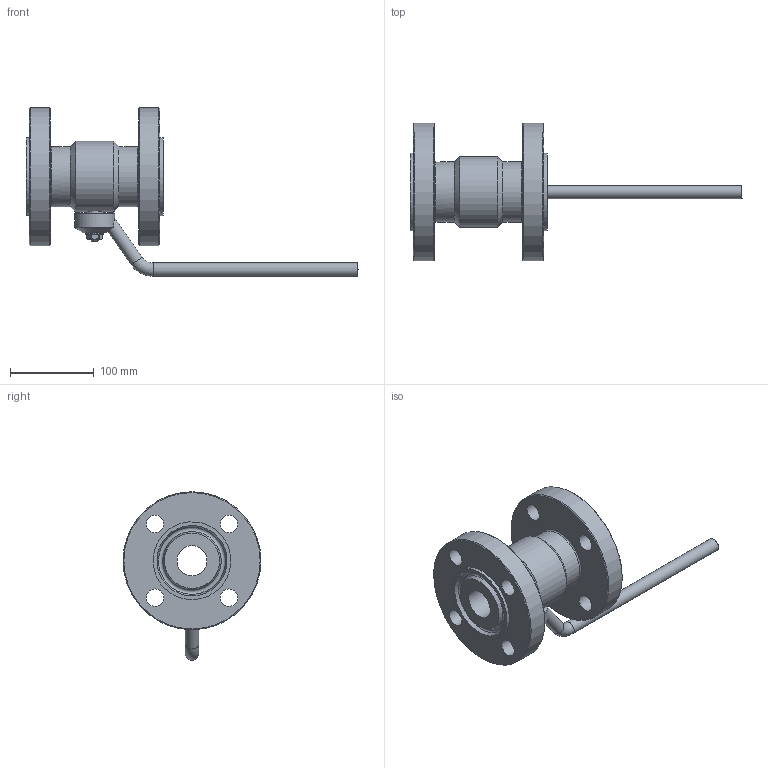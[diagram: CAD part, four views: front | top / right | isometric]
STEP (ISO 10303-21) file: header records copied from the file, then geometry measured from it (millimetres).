
FILE_DESCRIPTION(('STEP AP203'), '1');
FILE_NAME('ZARD 040.080.27.P.stp', '2013-12-06T06:49:47', ('User'), ('Computer'), 'ASCON STEP Converter 1.3', 'Kompas 3D', '');
FILE_SCHEMA(('CONFIG_CONTROL_DESIGN','SUPPORT_RESOURCE_SCHEMA'));
Length unit declared in the file: millimetre
Products named in the file (1): 92
Bounding box: 397.01 x 165 x 201.5 mm (x, y, z)
Volume: 1432280.4 mm3; surface area: 191539.2 mm2
Topology: 1 solids, 2 shells, 169 faces, 391 edges, 244 vertices
Faces by surface type: plane 76, cylinder 57, cone 24, torus 12
Full cylindrical faces by diameter (mm): 6 x1, 10 x2, 16 x3, 16.1 x1, 21 x8, 21.8 x1, 22 x2, 24.3 x1, 24.5 x1, 36 x2, 48 x1, 58.4 x1, 72 x2, 84.5 x1, 93 x2, 165 x2
Entity records: 6142 total; most frequent: CARTESIAN_POINT 2114, DIRECTION 857, ORIENTED_EDGE 782, EDGE_CURVE 391, AXIS2_PLACEMENT_3D 337, VERTEX_POINT 244, EDGE_LOOP 209, LINE 183
